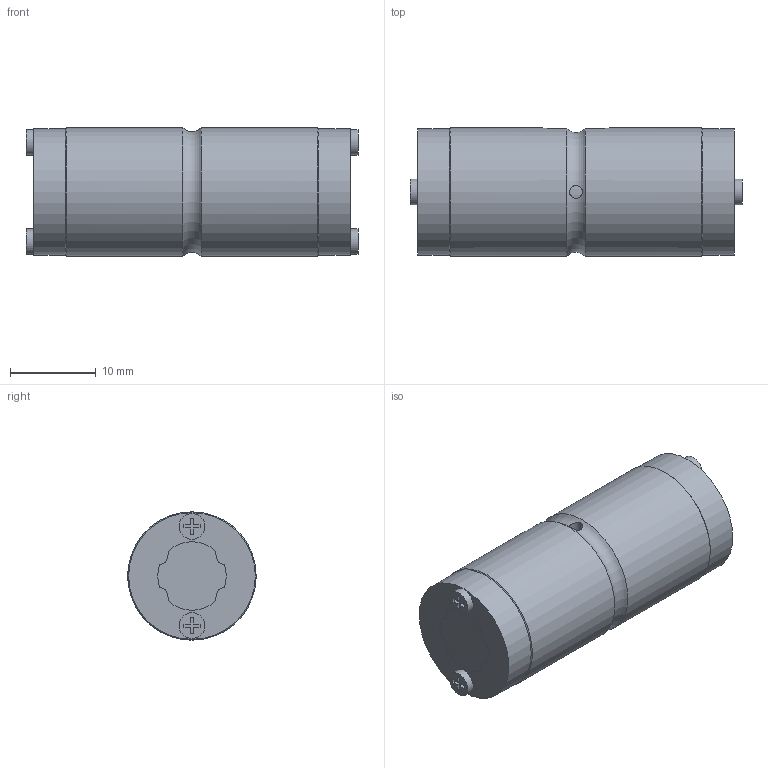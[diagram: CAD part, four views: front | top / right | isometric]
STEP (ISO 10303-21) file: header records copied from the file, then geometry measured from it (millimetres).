
FILE_DESCRIPTION(/* description */ ('STEP AP203'),/* implementation_level */ '2;1');
FILE_NAME(/* name */ 'LT8XL+37L(00)',/* time_stamp */ '2024-05-28T07:07:27+02:00',/* author */ ('License CC BY-ND 4.0'),/* organization */ ('CADENAS'),/* preprocessor_version */ 'ST-DEVELOPER v19.3',/* originating_system */ 'PARTsolutions',/* authorisation */ ' ');
FILE_SCHEMA (('CONFIG_CONTROL_DESIGN'));
Length unit declared in the file: millimetre
Products named in the file (3): LT8XL+37L(00); 1LT8XL 37Shaft; 1LT8XL Cylindar
Assembly tree (2 placements, depth 2):
  LT8XL+37L(00)
    1LT8XL 37Shaft
    1LT8XL Cylindar
Bounding box: 38.8 x 15 x 15 mm (x, y, z)
Volume: 6465.1 mm3; surface area: 4086.6 mm2
Topology: 2 solids, 2 shells, 118 faces, 318 edges, 212 vertices
Faces by surface type: plane 71, cylinder 44, cone 2, torus 1
Full cylindrical faces by diameter (mm): 1.5 x2, 3 x4, 14.8 x2, 15 x2
Entity records: 3721 total; most frequent: CARTESIAN_POINT 687, DIRECTION 616, ORIENTED_EDGE 600, EDGE_CURVE 300, LINE 210, VECTOR 210, VERTEX_POINT 206, AXIS2_PLACEMENT_3D 203
